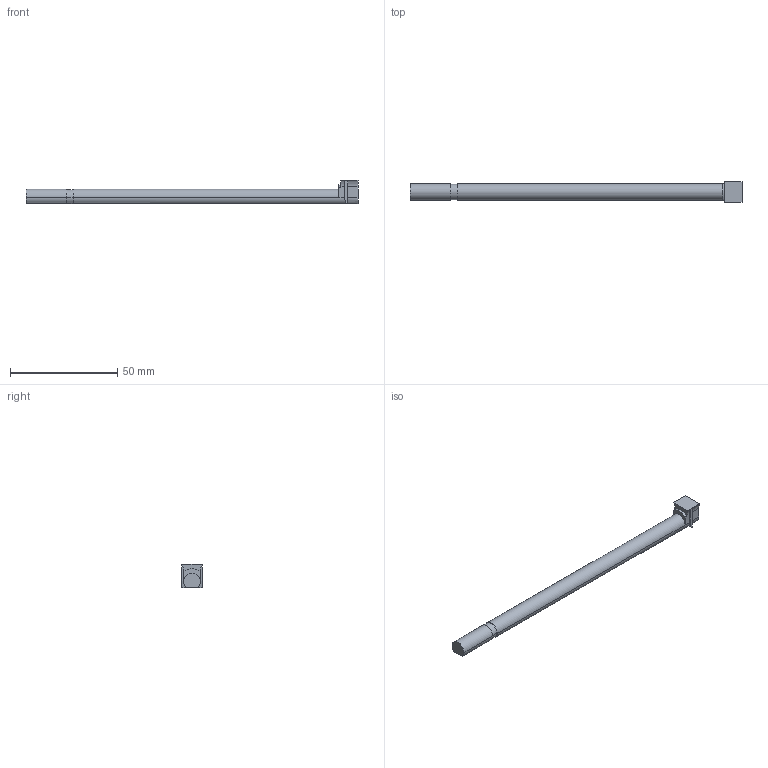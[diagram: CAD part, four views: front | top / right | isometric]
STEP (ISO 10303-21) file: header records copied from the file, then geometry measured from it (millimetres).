
FILE_DESCRIPTION (( 'STEP AP214' ), '1' );
FILE_NAME ('Axle_LargeStand_v3.2.STEP', '2019-03-31T19:38:53', ( '' ), ( '' ), 'SwSTEP 2.0', 'SolidWorks 2018', '' );
FILE_SCHEMA (( 'AUTOMOTIVE_DESIGN' ));
Length unit declared in the file: millimetre
Products named in the file (1): Axle_LargeStand_v3.2
Bounding box: 155 x 9.4 x 10.76 mm (x, y, z)
Volume: 7088.6 mm3; surface area: 4024.2 mm2
Topology: 1 solids, 1 shells, 38 faces, 106 edges, 70 vertices
Faces by surface type: plane 22, cylinder 16
Entity records: 1256 total; most frequent: CARTESIAN_POINT 227, ORIENTED_EDGE 212, DIRECTION 208, EDGE_CURVE 106, LINE 74, VECTOR 74, VERTEX_POINT 70, AXIS2_PLACEMENT_3D 67
